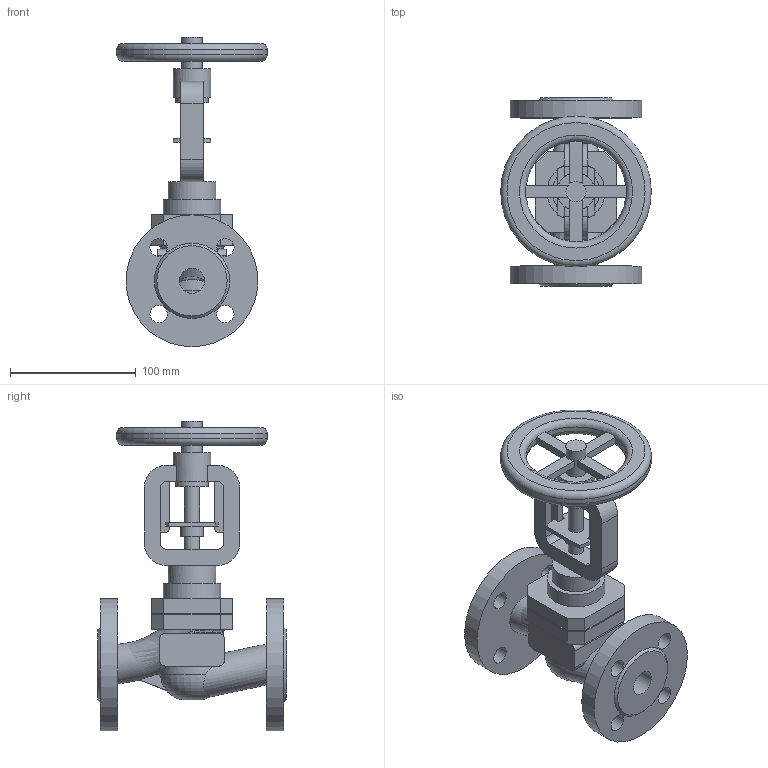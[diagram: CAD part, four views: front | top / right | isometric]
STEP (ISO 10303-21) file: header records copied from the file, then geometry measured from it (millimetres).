
FILE_DESCRIPTION(('STEP AP203'), '1');
FILE_NAME('Êëàïàí çàïîðíî-ðåãóëèðóþùèé BV2F DN20', '2026-09-22T07:51:31', ('Ýíåðãèÿ'), (''), 'ASCON STEP Converter 1.6', 'ASCON Math Kernel', '');
FILE_SCHEMA(('CONFIG_CONTROL_DESIGN'));
Length unit declared in the file: millimetre
Bounding box: 120 x 150 x 246.5 mm (x, y, z)
Volume: 696094.6 mm3; surface area: 135233.3 mm2
Topology: 1 solids, 1 shells, 192 faces, 517 edges, 341 vertices
Faces by surface type: plane 107, cylinder 66, bspline 11, torus 6, cone 2
Full cylindrical faces by diameter (mm): 12 x2, 14 x8, 16 x1, 18 x1, 20 x1, 26 x1, 30 x1, 38 x1, 43 x1, 46 x1, 105 x2, 120 x1
Entity records: 19127 total; most frequent: CARTESIAN_POINT 12859, ORIENTED_EDGE 968, DIRECTION 917, EDGE_CURVE 484, AXIS2_PLACEMENT_3D 341, VERTEX_POINT 341, EDGE_LOOP 267, LINE 235
